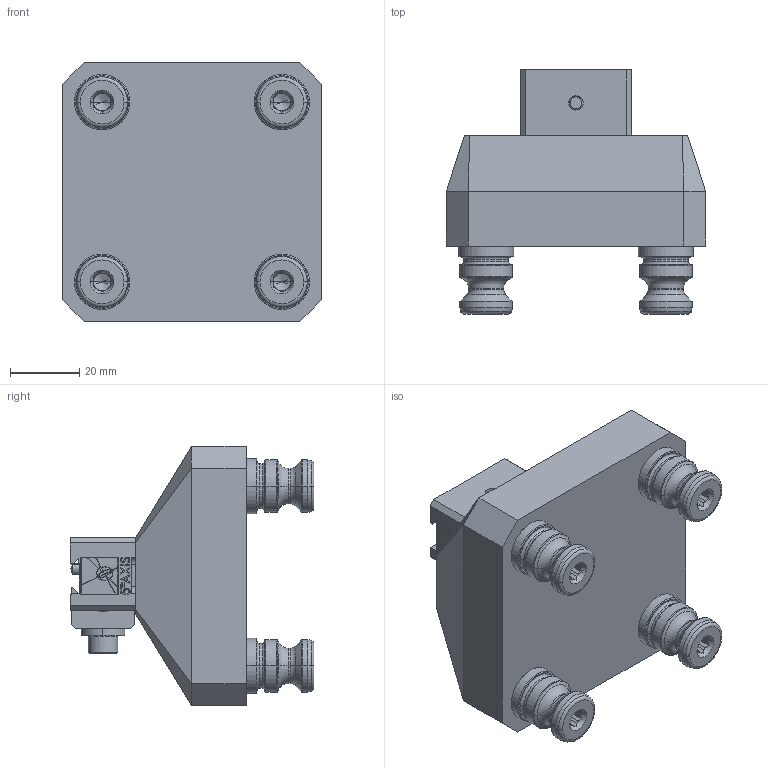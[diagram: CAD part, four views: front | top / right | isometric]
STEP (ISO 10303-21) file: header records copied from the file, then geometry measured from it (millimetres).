
FILE_DESCRIPTION (( 'STEP AP214' ), '1' );
FILE_NAME ('R52-DM12.STEP', '2019-05-12T17:17:36', ( '' ), ( '' ), 'SwSTEP 2.0', 'SolidWorks 2018', '' );
FILE_SCHEMA (( 'AUTOMOTIVE_DESIGN' ));
Length unit declared in the file: millimetre
Products named in the file (12): DM12; 76124_91290A242; 91595A108_METRIC ALLOY STEEL DOWEL PIN_91595A108; 91595A100_METRIC ALLOY STEEL DOWEL PIN_91595A100; HW.0203X0500.FW_DEFAULT; CLW10M_CLW10; DM12-1_D051251WM; PS16F; HW.39858.CPSS_M8X1.25X20MM; PS16F-1_PS16F; R52-DM12-1; R52-DM12
Assembly tree (15 placements, depth 3):
  R52-DM12
    R52-DM12-1
    PS16F  x4
      PS16F-1_PS16F
      HW.39858.CPSS_M8X1.25X20MM
    DM12
      DM12-1_D051251WM
      CLW10M_CLW10
      HW.0203X0500.FW_DEFAULT
      91595A100_METRIC ALLOY STEEL DOWEL PIN_91595A100
      91595A108_METRIC ALLOY STEEL DOWEL PIN_91595A108  x2
      76124_91290A242
Bounding box: 75 x 70.56 x 75 mm (x, y, z)
Volume: 163609.7 mm3; surface area: 38528.1 mm2
Topology: 16 solids, 16 shells, 1154 faces, 2874 edges, 1765 vertices
Faces by surface type: plane 381, cylinder 375, cone 206, torus 104, bspline 76, sphere 12
Entity records: 30192 total; most frequent: CARTESIAN_POINT 11024, ORIENTED_EDGE 3580, DIRECTION 3057, EDGE_CURVE 1790, VERTEX_POINT 1150, AXIS2_PLACEMENT_3D 1034, LINE 989, VECTOR 989
